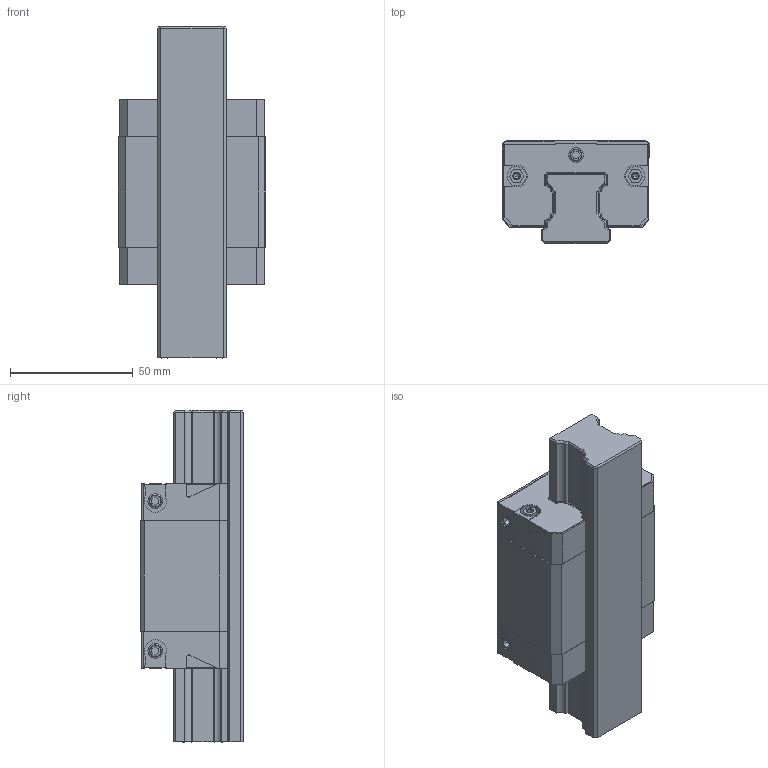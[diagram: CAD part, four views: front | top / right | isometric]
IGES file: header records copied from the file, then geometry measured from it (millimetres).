
Start section: 3D InterOp IGES (v. 2019 1.0.2), Spatial Corp. Copyright (c) 1999-2017.
Global section: file name: R1662_size30.igs; native system: Spatial Corp.; preprocessor: 3D InterOp GENERIC/IGES 3.0; author: Noname; organization: Noname; date: 20220629.125015; units: millimetre
Bounding box: 60 x 42 x 135.3 mm (x, y, z)
Surface area: 52078 mm2 (no closed solid volume)
Topology: 0 solids, 0 shells, 485 faces, 2526 edges, 2502 vertices
Faces by surface type: extrusion 288, revolution 197
